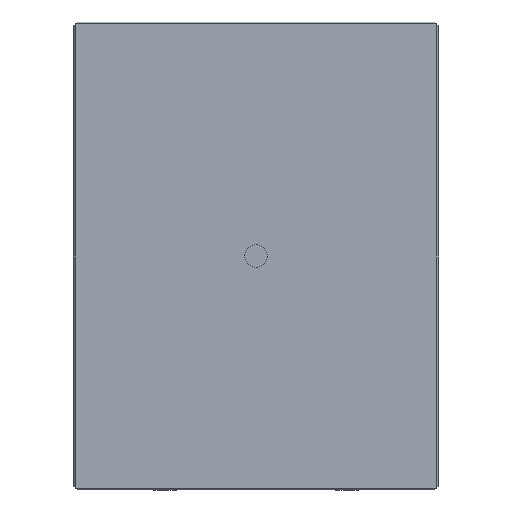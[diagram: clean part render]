
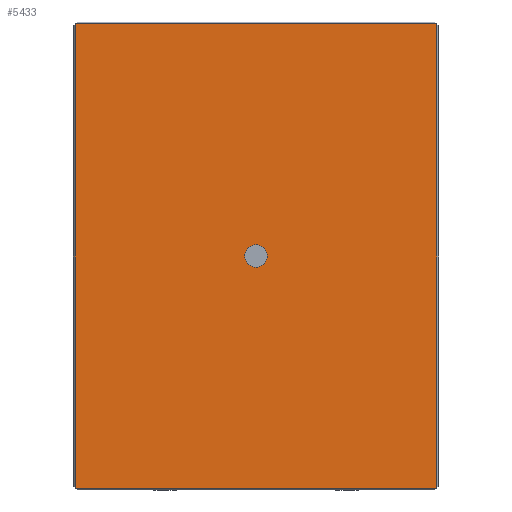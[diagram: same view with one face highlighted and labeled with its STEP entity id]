
A CAD part, front view. The second image highlights one B-rep face of the part: STEP entity #5433.
In plain terms, the highlighted planar face has unit normal (0, -1, 0).
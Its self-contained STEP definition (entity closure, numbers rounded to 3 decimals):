
#476 = EDGE_CURVE ( 'NONE', #4529, #4588, #1814, .T. ) ;
#482 = EDGE_CURVE ( 'NONE', #4589, #4529, #1848, .T. ) ;
#492 = EDGE_CURVE ( 'NONE', #5070, #5077, #1528, .T. ) ;
#494 = EDGE_CURVE ( 'NONE', #4521, #4589, #4215, .T. ) ;
#495 = EDGE_CURVE ( 'NONE', #4588, #4521, #4218, .T. ) ;
#1062 = CARTESIAN_POINT ( 'NONE',  ( -95., 0., 122. ) ) ;
#1069 = CARTESIAN_POINT ( 'NONE',  ( 95., 0., -122. ) ) ;
#1128 = CARTESIAN_POINT ( 'NONE',  ( 95., 0., 122. ) ) ;
#1129 = CARTESIAN_POINT ( 'NONE',  ( -95., 0., -122. ) ) ;
#1272 = CARTESIAN_POINT ( 'NONE',  ( 0., 0., 0. ) ) ;
#1273 = DIRECTION ( 'NONE',  ( 0., -1., 0. ) ) ;
#1274 = DIRECTION ( 'NONE',  ( 0., 0., -1. ) ) ;
#1494 = AXIS2_PLACEMENT_3D ( 'NONE', #4211, #4212, #4213 ) ;
#1499 = VECTOR ( 'NONE', #4217, 1000. ) ;
#1503 = VECTOR ( 'NONE', #4220, 1000. ) ;
#1528 = CIRCLE ( 'NONE', #1494, 6. ) ;
#1561 = AXIS2_PLACEMENT_3D ( 'NONE', #1272, #1273, #1274 ) ;
#1562 = CIRCLE ( 'NONE', #1561, 6. ) ;
#1814 = LINE ( 'NONE', #1833, #1890 ) ;
#1833 = CARTESIAN_POINT ( 'NONE',  ( 95., 0., 123. ) ) ;
#1834 = DIRECTION ( 'NONE',  ( 0., 0., 1. ) ) ;
#1848 = LINE ( 'NONE', #1849, #1883 ) ;
#1849 = CARTESIAN_POINT ( 'NONE',  ( 96., 0., -122. ) ) ;
#1850 = DIRECTION ( 'NONE',  ( 1., 0., 0. ) ) ;
#1883 = VECTOR ( 'NONE', #1850, 1000. ) ;
#1890 = VECTOR ( 'NONE', #1834, 1000. ) ;
#2022 = EDGE_LOOP ( 'NONE', ( #5743, #5742 ) ) ;
#2623 = CARTESIAN_POINT ( 'NONE',  ( 0., 0., -6. ) ) ;
#2628 = CARTESIAN_POINT ( 'NONE',  ( 0., 0., 6. ) ) ;
#2813 = FACE_OUTER_BOUND ( 'NONE', #5136, .T. ) ;
#2816 = CARTESIAN_POINT ( 'NONE',  ( 96., 0., 123. ) ) ;
#2820 = FACE_BOUND ( 'NONE', #2022, .T. ) ;
#2821 = PLANE ( 'NONE',  #4858 ) ;
#2823 = DIRECTION ( 'NONE',  ( 0., 1., 0. ) ) ;
#2824 = DIRECTION ( 'NONE',  ( 0., 0., 1. ) ) ;
#4211 = CARTESIAN_POINT ( 'NONE',  ( 0., 0., 0. ) ) ;
#4212 = DIRECTION ( 'NONE',  ( 0., -1., 0. ) ) ;
#4213 = DIRECTION ( 'NONE',  ( 0., 0., -1. ) ) ;
#4215 = LINE ( 'NONE', #4216, #1499 ) ;
#4216 = CARTESIAN_POINT ( 'NONE',  ( -95., 0., 123. ) ) ;
#4217 = DIRECTION ( 'NONE',  ( 0., 0., -1. ) ) ;
#4218 = LINE ( 'NONE', #4219, #1503 ) ;
#4219 = CARTESIAN_POINT ( 'NONE',  ( 96., 0., 122. ) ) ;
#4220 = DIRECTION ( 'NONE',  ( -1., 0., 0. ) ) ;
#4521 = VERTEX_POINT ( 'NONE', #1062 ) ;
#4529 = VERTEX_POINT ( 'NONE', #1069 ) ;
#4588 = VERTEX_POINT ( 'NONE', #1128 ) ;
#4589 = VERTEX_POINT ( 'NONE', #1129 ) ;
#4858 = AXIS2_PLACEMENT_3D ( 'NONE', #2816, #2823, #2824 ) ;
#4895 = EDGE_CURVE ( 'NONE', #5077, #5070, #1562, .T. ) ;
#5070 = VERTEX_POINT ( 'NONE', #2623 ) ;
#5077 = VERTEX_POINT ( 'NONE', #2628 ) ;
#5136 = EDGE_LOOP ( 'NONE', ( #5741, #5740, #5739, #5738 ) ) ;
#5433 = ADVANCED_FACE ( 'NONE', ( #2820, #2813 ), #2821, .F. ) ;
#5738 = ORIENTED_EDGE ( 'NONE', *, *, #494, .T. ) ;
#5739 = ORIENTED_EDGE ( 'NONE', *, *, #495, .T. ) ;
#5740 = ORIENTED_EDGE ( 'NONE', *, *, #476, .T. ) ;
#5741 = ORIENTED_EDGE ( 'NONE', *, *, #482, .T. ) ;
#5742 = ORIENTED_EDGE ( 'NONE', *, *, #4895, .F. ) ;
#5743 = ORIENTED_EDGE ( 'NONE', *, *, #492, .F. ) ;
